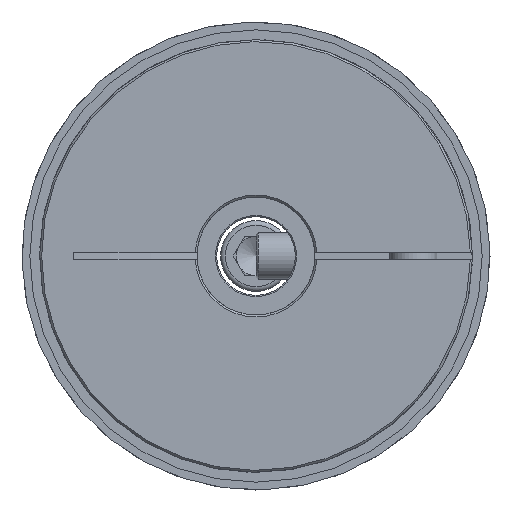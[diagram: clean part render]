
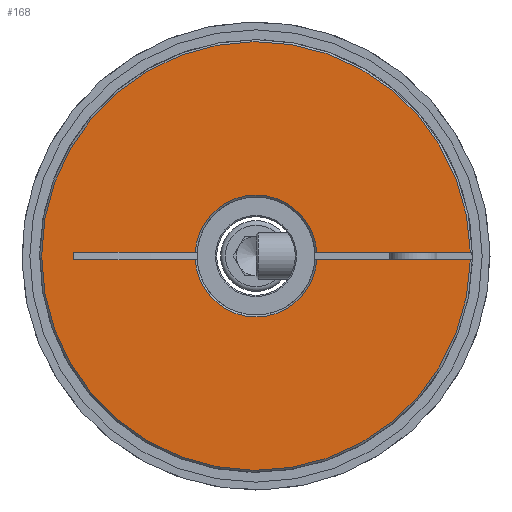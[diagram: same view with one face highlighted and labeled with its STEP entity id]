
A CAD part, left-side view. The second image highlights one B-rep face of the part: STEP entity #168.
In plain terms, the highlighted planar face has unit normal (-1, 0, 0).
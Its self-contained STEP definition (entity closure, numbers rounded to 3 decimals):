
#168 = ADVANCED_FACE( 'NONE', ( #291 ), #292, .F. );
#291 = FACE_OUTER_BOUND( '', #418, .T. );
#292 = PLANE( '', #419 );
#418 = EDGE_LOOP( '', ( #738, #739, #740, #741, #742, #743, #744, #745 ) );
#419 = AXIS2_PLACEMENT_3D( '', #746, #747, #748 );
#738 = ORIENTED_EDGE( '', *, *, #1165, .T. );
#739 = ORIENTED_EDGE( '', *, *, #1202, .T. );
#740 = ORIENTED_EDGE( '', *, *, #1196, .T. );
#741 = ORIENTED_EDGE( '', *, *, #1191, .T. );
#742 = ORIENTED_EDGE( '', *, *, #1181, .F. );
#743 = ORIENTED_EDGE( '', *, *, #1205, .T. );
#744 = ORIENTED_EDGE( '', *, *, #1148, .F. );
#745 = ORIENTED_EDGE( '', *, *, #1209, .T. );
#746 = CARTESIAN_POINT( '', ( 0., 15., 0. ) );
#747 = DIRECTION( '', ( 1., 0., 0. ) );
#748 = DIRECTION( '', ( 0., 1., 0. ) );
#1148 = EDGE_CURVE( 'NONE', #1597, #1598, #1599, .F. );
#1165 = EDGE_CURVE( 'NONE', #1630, #1628, #1631, .T. );
#1181 = EDGE_CURVE( 'NONE', #1654, #1656, #1657, .F. );
#1191 = EDGE_CURVE( 'NONE', #1669, #1656, #1670, .F. );
#1196 = EDGE_CURVE( 'NONE', #1676, #1669, #1677, .T. );
#1202 = EDGE_CURVE( 'NONE', #1628, #1676, #1684, .T. );
#1205 = EDGE_CURVE( 'NONE', #1654, #1598, #1687, .T. );
#1209 = EDGE_CURVE( 'NONE', #1597, #1630, #1691, .T. );
#1597 = VERTEX_POINT( 'NONE', #2461 );
#1598 = VERTEX_POINT( 'NONE', #2462 );
#1599 = LINE( '', #2463, #2464 );
#1628 = VERTEX_POINT( 'NONE', #2677 );
#1630 = VERTEX_POINT( 'NONE', #2682 );
#1631 = LINE( '', #2683, #2684 );
#1654 = VERTEX_POINT( 'NONE', #2713 );
#1656 = VERTEX_POINT( 'NONE', #2718 );
#1657 = LINE( '', #2719, #2720 );
#1669 = VERTEX_POINT( 'NONE', #2736 );
#1670 = CIRCLE( '', #2737, 54.5 );
#1676 = VERTEX_POINT( 'NONE', #2746 );
#1677 = LINE( '', #2747, #2748 );
#1684 = CIRCLE( '', #2759, 15.5 );
#1687 = CIRCLE( '', #2762, 15.5 );
#1691 = LINE( '', #2766, #2767 );
#2461 = CARTESIAN_POINT( '', ( 0., 46.303, -1. ) );
#2462 = CARTESIAN_POINT( '', ( 0., 15.468, -1. ) );
#2463 = CARTESIAN_POINT( '', ( 0., -15., -1. ) );
#2464 = VECTOR( '', #2951, 1000. );
#2677 = CARTESIAN_POINT( '', ( 0., 15.468, 1. ) );
#2682 = CARTESIAN_POINT( '', ( 0., 46.303, 1. ) );
#2683 = CARTESIAN_POINT( '', ( 0., 15., 1. ) );
#2684 = VECTOR( '', #2972, 1000. );
#2713 = CARTESIAN_POINT( '', ( 0., -15.468, -1. ) );
#2718 = CARTESIAN_POINT( '', ( 0., -54.491, -1. ) );
#2719 = CARTESIAN_POINT( '', ( 0., -15., -1. ) );
#2720 = VECTOR( '', #2997, 1000. );
#2736 = CARTESIAN_POINT( '', ( 0., -54.491, 1. ) );
#2737 = AXIS2_PLACEMENT_3D( '', #3011, #3012, #3013 );
#2746 = CARTESIAN_POINT( '', ( 0., -15.468, 1. ) );
#2747 = CARTESIAN_POINT( '', ( 0., 15., 1. ) );
#2748 = VECTOR( '', #3017, 1000. );
#2759 = AXIS2_PLACEMENT_3D( '', #3022, #3023, #3024 );
#2762 = AXIS2_PLACEMENT_3D( '', #3025, #3026, #3027 );
#2766 = CARTESIAN_POINT( '', ( 0., 46.303, -1. ) );
#2767 = VECTOR( '', #3028, 1000. );
#2951 = DIRECTION( '', ( 0., 1., 0. ) );
#2972 = DIRECTION( '', ( 0., -1., 0. ) );
#2997 = DIRECTION( '', ( 0., 1., 0. ) );
#3011 = CARTESIAN_POINT( '', ( 0., 0., 0. ) );
#3012 = DIRECTION( '', ( 1., 0., 0. ) );
#3013 = DIRECTION( '', ( 0., 0., -1. ) );
#3017 = DIRECTION( '', ( 0., -1., 0. ) );
#3022 = CARTESIAN_POINT( '', ( 0., 0., 0. ) );
#3023 = DIRECTION( '', ( 1., 0., 0. ) );
#3024 = DIRECTION( '', ( 0., 0., -1. ) );
#3025 = CARTESIAN_POINT( '', ( 0., 0., 0. ) );
#3026 = DIRECTION( '', ( 1., 0., 0. ) );
#3027 = DIRECTION( '', ( 0., 0., -1. ) );
#3028 = DIRECTION( '', ( 0., 0., 1. ) );
